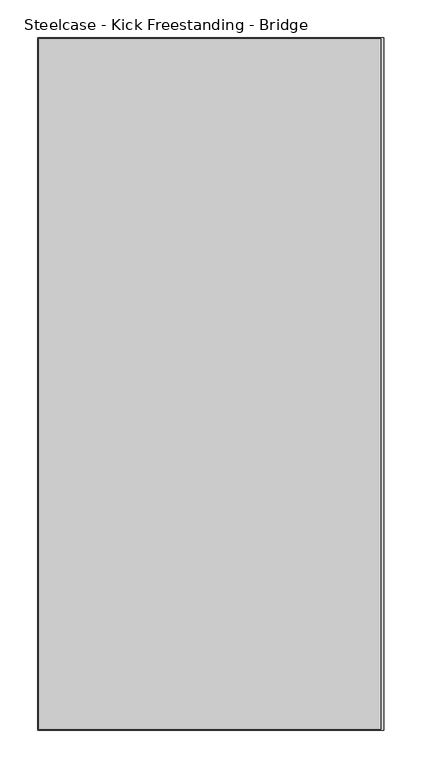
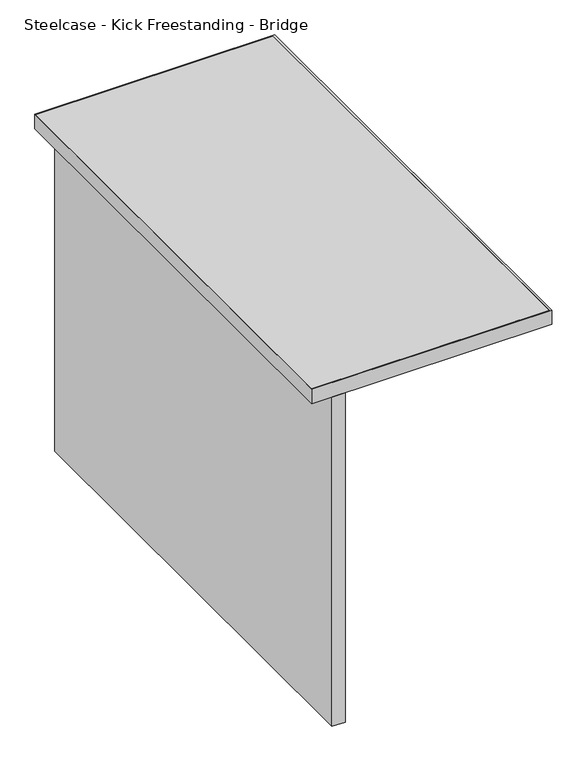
"""IFC4 building model written with IfcOpenShell, lengths in millimetres: furniture geometry, Steelcase - Kick Freestanding - Bridge : 18D x 36W - Full Panel."""

from ifc_helpers import new_model, si_unit, frame, origin, place, context, project, spatial, polyline, outline, extrude, source, transform, mapped, element, save


def steelcase_kick_freestanding_bridge_9e9fd1a8(model_context):
    return source(origin(), model_context, "Body", "SweptSolid", [
        extrude(outline(polyline([(2201.9594425, -1461.2145152), (2201.9594425, -546.8145152), (2227.3594425, -546.8145152), (2227.3594425, -1461.2145152), (2201.9594425, -1461.2145152)])), frame((0.0, 0.0, 18.542), z_axis=(0.0, 0.0, 1.0), x_axis=(1.0, 0.0, 0.0)), (0.0, 0.0, 1.0), 663.702),
        extrude(outline(polyline([(2616.8176592, -548.0845152), (2616.8176592, -1459.9445152), (2164.8500425, -1459.9445152), (2164.8500425, -548.0845152), (2616.8176592, -548.0845152)])), frame((0.0, 0.0, 682.244), z_axis=(0.0, 0.0, 1.0), x_axis=(1.0, 0.0, 0.0)), (0.0, 0.0, 1.0), 28.956),
        extrude(outline(polyline([(2621.0594425, -546.8145152), (2621.0594425, -1461.2145152), (2163.8594425, -1461.2145152), (2163.8594425, -546.8145152), (2621.0594425, -546.8145152)]), holes=[polyline([(2616.8176592, -548.0845152), (2164.8500425, -548.0845152), (2164.8500425, -1459.9445152), (2616.8176592, -1459.9445152), (2616.8176592, -548.0845152)])]), frame((0.0, 0.0, 682.244), z_axis=(0.0, 0.0, 1.0), x_axis=(1.0, 0.0, 0.0)), (0.0, 0.0, 1.0), 28.956),
    ])


if __name__ == "__main__":
    model = new_model("IFC4")
    model_context = context("Model", 3, world=origin())
    ifc_project = project(units=[si_unit("LENGTHUNIT", "METRE", prefix="MILLI")], contexts=[model_context])
    site = spatial("IfcSite", under=ifc_project)
    building = spatial("IfcBuilding", under=site)
    placement = place(None, origin())
    steelcase_kick_freestanding_bridge_shape = steelcase_kick_freestanding_bridge_9e9fd1a8(model_context)
    element("IfcFurniture", 1, ObjectType="Steelcase - Kick Freestanding - Bridge : 18D x 36W - Full Panel", at=placement, inside=building, context=model_context, shape_type="MappedRepresentation", body=[
        mapped(steelcase_kick_freestanding_bridge_shape, transform((0.0, 0.0, 0.0), x_axis=(1.0, 0.0, 0.0), y_axis=(0.0, 1.0, 0.0), z_axis=(0.0, 0.0, 1.0))),
    ])
    save(model, "model.ifc")
